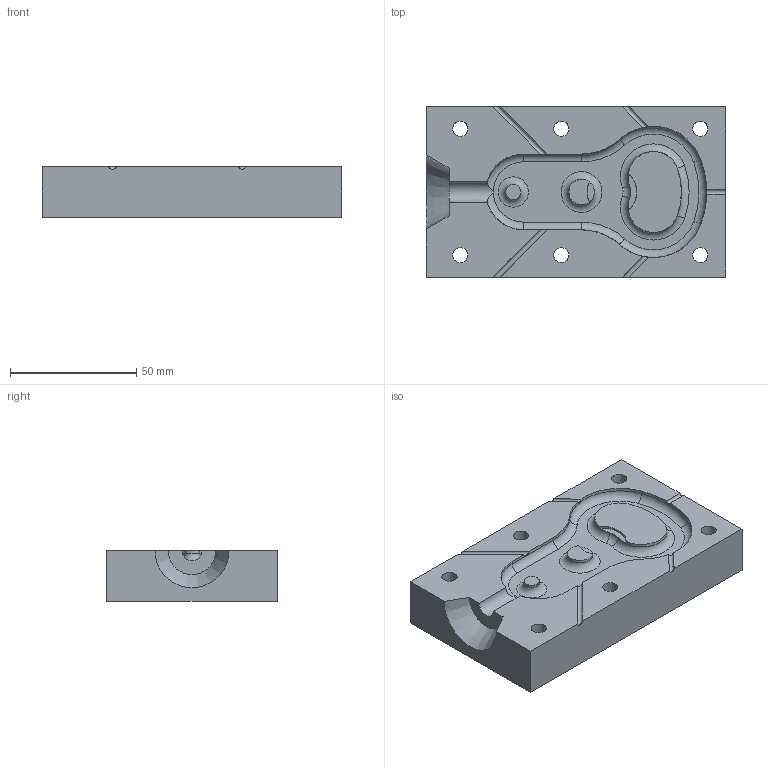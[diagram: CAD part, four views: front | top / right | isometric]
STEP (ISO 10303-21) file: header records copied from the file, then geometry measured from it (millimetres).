
FILE_DESCRIPTION(/* description */ ('STEP AP242','CAx-IF Rec.Pracs.---Representation and Presentation of Product Manufacturing Information (PMI)---4.0---2014-10-13','CAx-IF Rec.Pracs.---3D Tessellated Geometry---0.4---2014-09-14','2;1'),/* implementation_level */ '2;1');
FILE_NAME(/* name */ '63356964a4a3282a9d9681dc',/* time_stamp */ '2022-09-29T09:46:13+00:00',/* author */ (''),/* organization */ (''),/* preprocessor_version */ 'ST-DEVELOPER v18.102',/* originating_system */ ' ',/* authorisation */ ' ');
FILE_SCHEMA (('AP242_MANAGED_MODEL_BASED_3D_ENGINEERING_MIM_LF { 1 0 10303 442 1 1 4 }'));
Length unit declared in the file: metre
Products named in the file (1): moule decaps V1 v9
Bounding box: 118.43 x 67.35 x 20 mm (x, y, z)
Volume: 144637.7 mm3; surface area: 26376.8 mm2
Topology: 1 solids, 1 shells, 63 faces, 165 edges, 107 vertices
Faces by surface type: plane 20, cylinder 15, cone 13, torus 13, bspline 2
Full cylindrical faces by diameter (mm): 6 x7
Entity records: 1935 total; most frequent: CARTESIAN_POINT 374, DIRECTION 344, ORIENTED_EDGE 296, EDGE_CURVE 148, AXIS2_PLACEMENT_3D 145, VERTEX_POINT 100, EDGE_LOOP 88, FACE_BOUND 88
